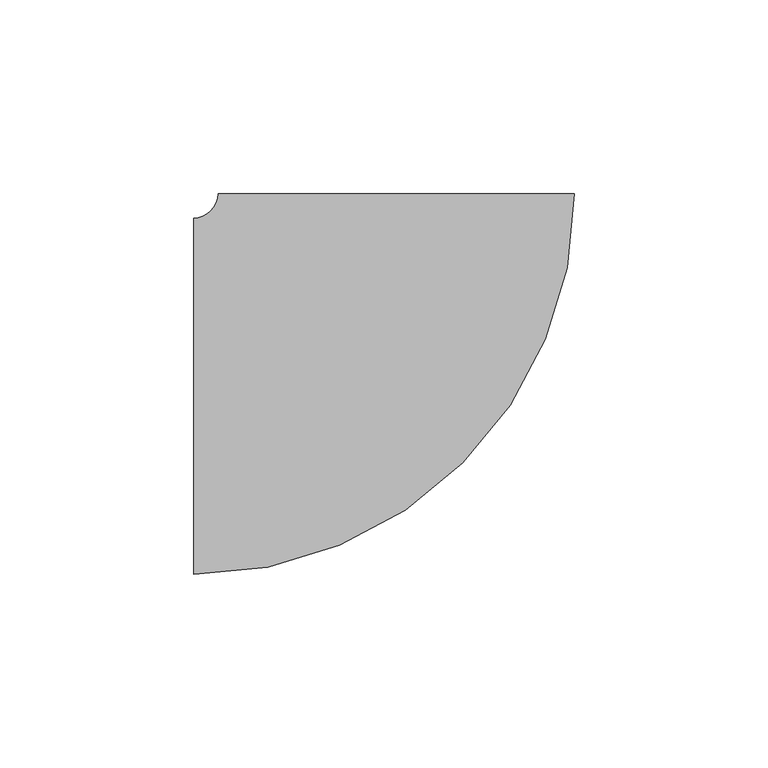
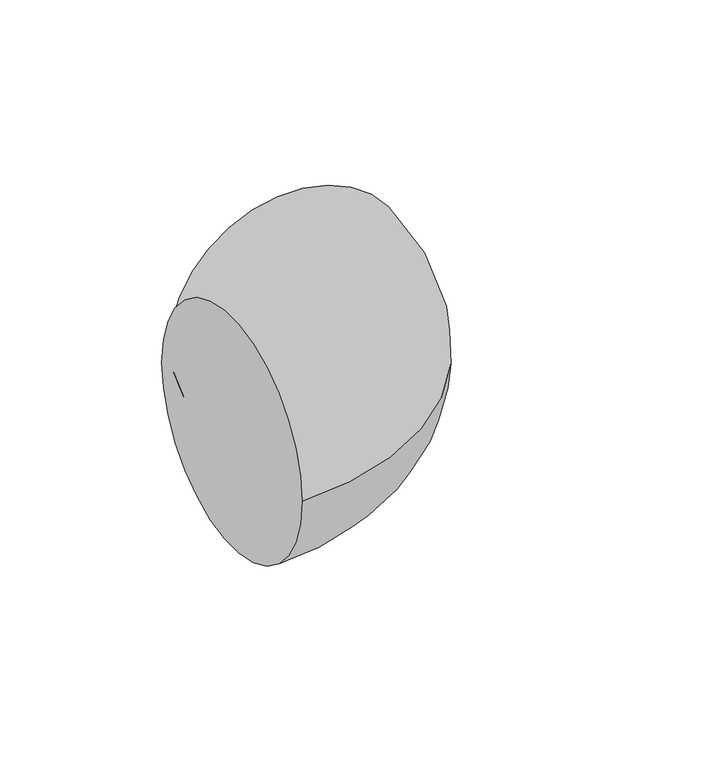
"""IFC4 building model written with IfcOpenShell, lengths in millimetres: pipe fitting geometry, M_Codo - Genérico : Estándar."""

from ifc_helpers import new_model, si_unit, point, frame, origin, place, context, project, spatial, circle_curve, ellipse_curve, trimmed, source, transform, mapped, element, save
from ifc_brep_helpers import plane_surface, revolved_surface, advanced_brep


def pipe_fitting_18c4f502(model_context):
    return source(origin(), model_context, "Body", "AdvancedBrep", [
        advanced_brep(
        [(-52.3875265, -46.0375, 0.0), (-52.3875265, 46.0375, 0.0), (46.0374735, 52.3875499, 0.0), (-46.0375265, 52.3875032, 0.0)],
        [
            (0, 1, circle_curve(frame((-52.3875265, 0.0, 0.0), z_axis=(-1.0, 0.0, 0.0), x_axis=(0.0, 1.0, 0.0)), 46.0375)),
            (1, 0, circle_curve(frame((-52.3875265, 0.0, 0.0), z_axis=(-1.0, 0.0, 0.0), x_axis=(0.0, 1.0, 0.0)), 46.0375)),
            (2, 3, circle_curve(frame((-2.65e-05, 52.3875265, 0.0), z_axis=(-5.067377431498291e-07, 0.9999999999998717, 0.0), x_axis=(-0.9999999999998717, -5.067377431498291e-07, 0.0)), 46.0375)),
            (3, 2, circle_curve(frame((-2.65e-05, 52.3875265, 0.0), z_axis=(-5.067377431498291e-07, 0.9999999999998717, 0.0), x_axis=(-0.9999999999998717, -5.067377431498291e-07, 0.0)), 46.0375)),
            (3, 1, circle_curve(frame((-52.3875265, 52.3875, 0.0), z_axis=(0.0, 0.0, -1.0), x_axis=(0.0, -1.0, 0.0)), 6.35)),
            (0, 2, circle_curve(frame((-52.3875265, 52.3875, 0.0), z_axis=(0.0, 0.0, 1.0), x_axis=(0.0, -1.0, 0.0)), 98.425)),
        ],
        [
            plane_surface(frame((-52.3875265, 0.0, 0.0), z_axis=(-1.0, 0.0, 0.0), x_axis=(0.0, 0.0, 1.0))),
            plane_surface(frame((-2.65e-05, 52.3875265, 0.0), z_axis=(-5.067377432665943e-07, 0.9999999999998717, 0.0), x_axis=(0.0, 0.0, 1.0))),
            revolved_surface(trimmed(ellipse_curve(frame((-52.3875265, 0.0, 0.0), z_axis=(-1.0, 0.0, 0.0), x_axis=(0.0, 1.0, 0.0)), 46.0375, 46.0375), [point((-52.3875265, -46.0375, 0.0))], [point((-52.3875265, 46.0375, 0.0))], True, "CARTESIAN"), (-52.3875265, 52.3875, 0.0), (0.0, 0.0, 1.0)),
            revolved_surface(trimmed(ellipse_curve(frame((-52.3875265, 0.0, 0.0), z_axis=(-1.0, 0.0, 0.0), x_axis=(0.0, 1.0, 0.0)), 46.0375, 46.0375), [point((-52.3875265, 46.0375, 0.0))], [point((-52.3875265, -46.0375, 0.0))], True, "CARTESIAN"), (-52.3875265, 52.3875, 0.0), (0.0, 0.0, 1.0)),
        ],
        [
            (0, [[1, 2]]),
            (1, [[3, 4]]),
            (2, [[5, -1, 6, -4]]),
            (3, [[-6, -2, -5, -3]]),
        ],
    ),
    ])


if __name__ == "__main__":
    model = new_model("IFC4")
    model_context = context("Model", 3, world=origin())
    ifc_project = project(units=[si_unit("LENGTHUNIT", "METRE", prefix="MILLI")], contexts=[model_context])
    site = spatial("IfcSite", under=ifc_project)
    building = spatial("IfcBuilding", under=site)
    placement = place(None, origin())
    pipe_fitting_shape = pipe_fitting_18c4f502(model_context)
    element("IfcPipeFitting", 1, ObjectType="M_Codo - Genérico : Estándar", at=placement, inside=building, context=model_context, shape_type="MappedRepresentation", body=[
        mapped(pipe_fitting_shape, transform((0.0, 0.0, 0.0), x_axis=(1.0, 0.0, 0.0), y_axis=(0.0, 1.0, 0.0), z_axis=(0.0, 0.0, 1.0))),
    ])
    save(model, "model.ifc")
